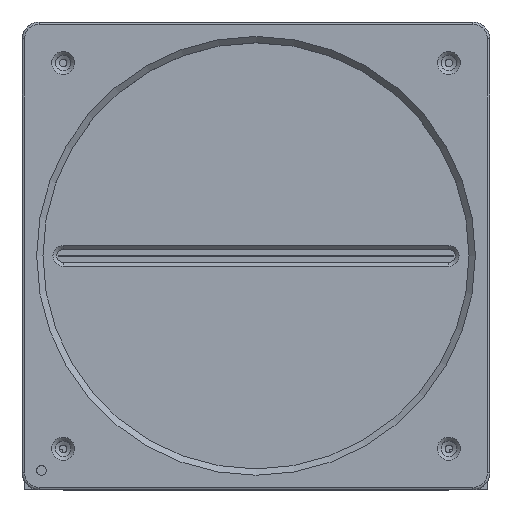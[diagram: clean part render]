
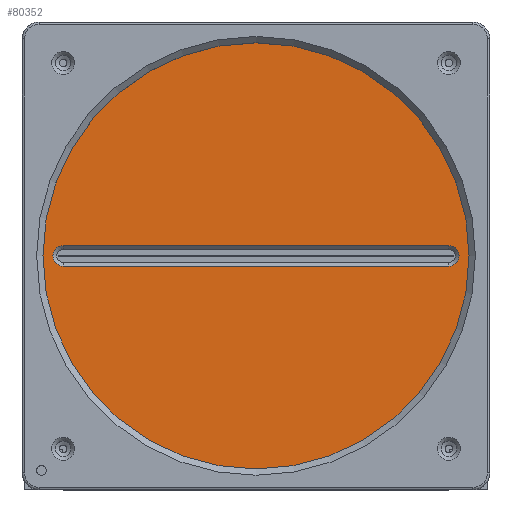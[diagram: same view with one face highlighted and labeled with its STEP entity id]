
A CAD part, top view. The second image highlights one B-rep face of the part: STEP entity #80352.
In plain terms, the highlighted planar face has unit normal (0, 0, 1).
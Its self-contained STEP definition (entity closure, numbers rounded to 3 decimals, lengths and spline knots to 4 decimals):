
#2771=FACE_BOUND('',#11729,.T.);
#3981=PLANE('',#84993);
#7358=FACE_OUTER_BOUND('',#11728,.T.);
#11728=EDGE_LOOP('',(#58664));
#11729=EDGE_LOOP('',(#58665,#58666,#58667,#58668));
#17372=LINE('',#116309,#25903);
#17376=LINE('',#116318,#25907);
#25903=VECTOR('',#93675,7.99);
#25907=VECTOR('',#93685,7.99);
#32664=CIRCLE('',#84989,0.215);
#32665=CIRCLE('',#84992,0.215);
#32666=CIRCLE('',#84994,4.55);
#35449=VERTEX_POINT('',#116306);
#35450=VERTEX_POINT('',#116308);
#35451=VERTEX_POINT('',#116312);
#35452=VERTEX_POINT('',#116316);
#35453=VERTEX_POINT('',#116322);
#44081=EDGE_CURVE('',#35449,#35450,#17372,.T.);
#44084=EDGE_CURVE('',#35450,#35451,#32664,.T.);
#44086=EDGE_CURVE('',#35451,#35452,#17376,.T.);
#44087=EDGE_CURVE('',#35452,#35449,#32665,.T.);
#44088=EDGE_CURVE('',#35453,#35453,#32666,.T.);
#58664=ORIENTED_EDGE('',*,*,#44088,.F.);
#58665=ORIENTED_EDGE('',*,*,#44081,.F.);
#58666=ORIENTED_EDGE('',*,*,#44087,.F.);
#58667=ORIENTED_EDGE('',*,*,#44086,.F.);
#58668=ORIENTED_EDGE('',*,*,#44084,.F.);
#80352=ADVANCED_FACE('',(#7358,#2771),#3981,.T.);
#84989=AXIS2_PLACEMENT_3D('',#116314,#93680,#93681);
#84992=AXIS2_PLACEMENT_3D('',#116320,#93688,#93689);
#84993=AXIS2_PLACEMENT_3D('',#116321,#93690,#93691);
#84994=AXIS2_PLACEMENT_3D('',#116323,#93692,#93693);
#93675=DIRECTION('',(1.,0.,0.));
#93680=DIRECTION('center_axis',(0.,0.,
1.));
#93681=DIRECTION('ref_axis',(1.,0.,0.));
#93685=DIRECTION('',(-1.,0.,0.));
#93688=DIRECTION('center_axis',(0.,0.,
1.));
#93689=DIRECTION('ref_axis',(-1.,0.,0.));
#93690=DIRECTION('center_axis',(0.,0.,
1.));
#93691=DIRECTION('ref_axis',(1.,0.,0.));
#93692=DIRECTION('center_axis',(0.,0.,
-1.));
#93693=DIRECTION('ref_axis',(-1.,0.,0.));
#116306=CARTESIAN_POINT('',(-3.995,-0.215,0.5167));
#116308=CARTESIAN_POINT('',(3.995,-0.215,0.5167));
#116309=CARTESIAN_POINT('',(-1.9975,-0.215,0.5167));
#116312=CARTESIAN_POINT('',(3.995,0.215,0.5167));
#116314=CARTESIAN_POINT('Origin',(3.995,0.,0.5167));
#116316=CARTESIAN_POINT('',(-3.995,0.215,0.5167));
#116318=CARTESIAN_POINT('',(1.9975,0.215,0.5167));
#116320=CARTESIAN_POINT('Origin',(-3.995,0.,0.5167));
#116321=CARTESIAN_POINT('Origin',(0.,0.,
0.5167));
#116322=CARTESIAN_POINT('',(4.55,0.,0.5167));
#116323=CARTESIAN_POINT('Origin',(0.,0.,
0.5167));
